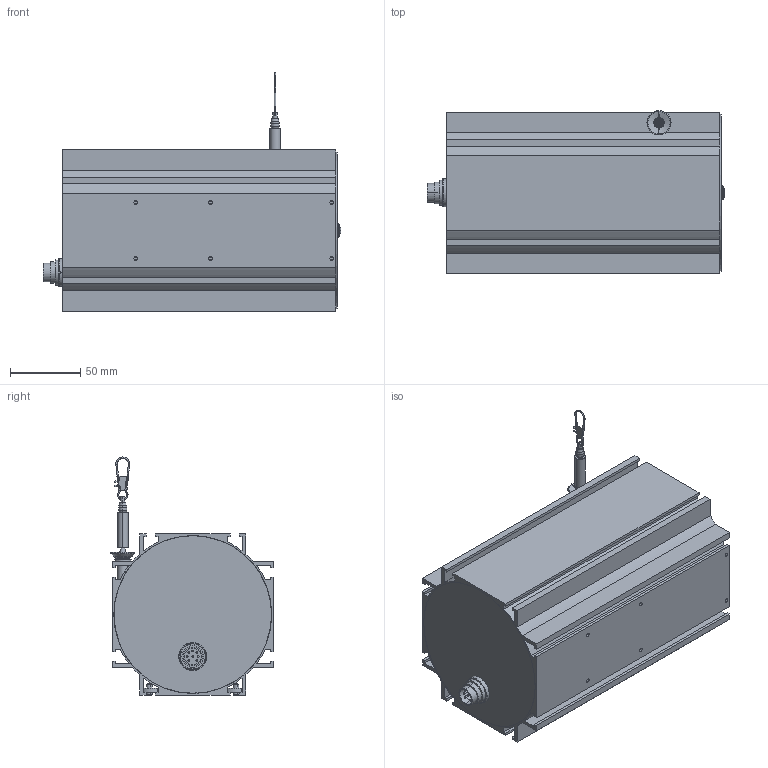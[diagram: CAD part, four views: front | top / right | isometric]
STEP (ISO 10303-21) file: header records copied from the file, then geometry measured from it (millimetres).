
FILE_DESCRIPTION((''),'2;1');
FILE_NAME('','2007-03-21T',(''),(''),'PRO/ENGINEER BY PARAMETRIC TECHNOLOGY CORPORATION, 2003250','PRO/ENGINEER BY PARAMETRIC TECHNOLOGY CORPORATION, 2003250','');
FILE_SCHEMA(('CONFIG_CONTROL_DESIGN'));
Length unit declared in the file: millimetre
Bounding box: 212.47 x 116.11 x 170 mm (x, y, z)
Volume: 389124.3 mm3; surface area: 248261.8 mm2
Topology: 1 solids, 5 shells, 585 faces, 1436 edges, 935 vertices
Faces by surface type: plane 290, cylinder 209, cone 56, torus 26, sphere 4
Entity records: 17878 total; most frequent: CARTESIAN_POINT 3552, DIRECTION 3113, ORIENTED_EDGE 2860, EDGE_CURVE 1430, AXIS2_PLACEMENT_3D 1157, VERTEX_POINT 935, VECTOR 799, LINE 799
